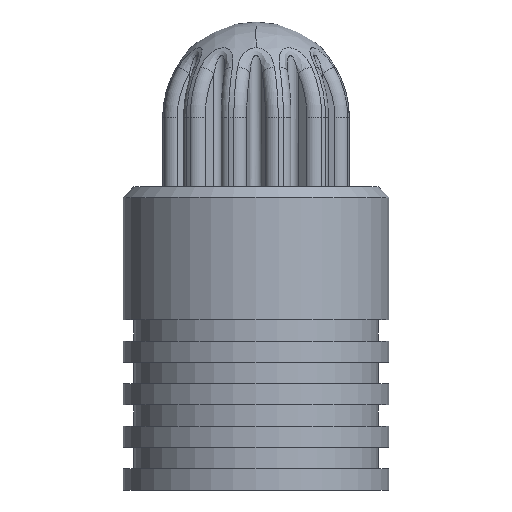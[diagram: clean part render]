
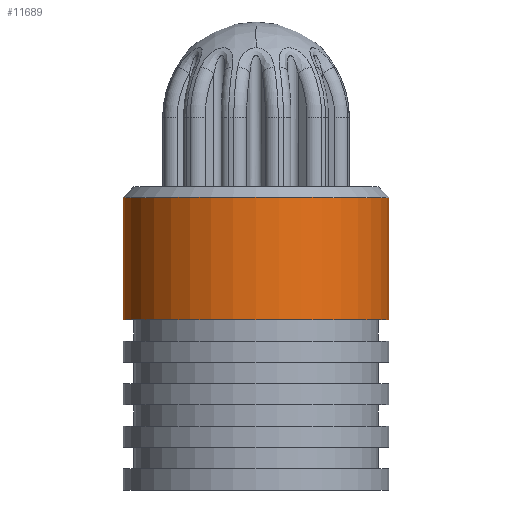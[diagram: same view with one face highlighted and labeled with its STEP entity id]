
A CAD part, front view. The second image highlights one B-rep face of the part: STEP entity #11689.
In plain terms, the highlighted cylindrical face has radius 3.174 mm (diameter 6.347 mm), a partial arc.
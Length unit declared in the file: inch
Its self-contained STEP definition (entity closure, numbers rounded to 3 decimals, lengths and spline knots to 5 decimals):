
#223 = ORIENTED_EDGE ( 'NONE', *, *, #13128, .T. ) ;
#858 = ORIENTED_EDGE ( 'NONE', *, *, #7886, .F. ) ;
#1384 = CARTESIAN_POINT ( 'NONE',  ( 0., 0., -0.125 ) ) ;
#1676 = CARTESIAN_POINT ( 'NONE',  ( 0.12495, 0., -0.125 ) ) ;
#6556 = CARTESIAN_POINT ( 'NONE',  ( -0.12495, 0., -0.01 ) ) ;
#6582 = ORIENTED_EDGE ( 'NONE', *, *, #9139, .F. ) ;
#6716 = FACE_OUTER_BOUND ( 'NONE', #10010, .T. ) ;
#6853 = LINE ( 'NONE', #13905, #17127 ) ;
#7840 = LINE ( 'NONE', #21650, #16772 ) ;
#7886 = EDGE_CURVE ( 'NONE', #21089, #22452, #6853, .T. ) ;
#8453 = DIRECTION ( 'NONE',  ( 0., 0., -1. ) ) ;
#8597 = DIRECTION ( 'NONE',  ( 0., 0., -1. ) ) ;
#9139 = EDGE_CURVE ( 'NONE', #22452, #12360, #11758, .T. ) ;
#9679 = AXIS2_PLACEMENT_3D ( 'NONE', #20667, #16864, #13439 ) ;
#10010 = EDGE_LOOP ( 'NONE', ( #858, #17193, #223, #6582 ) ) ;
#10542 = DIRECTION ( 'NONE',  ( 0., 0., -1. ) ) ;
#11407 = DIRECTION ( 'NONE',  ( 0., 0., -1. ) ) ;
#11544 = EDGE_CURVE ( 'NONE', #21089, #19057, #11893, .T. ) ;
#11689 = ADVANCED_FACE ( 'NONE', ( #6716 ), #12032, .T. ) ;
#11758 = CIRCLE ( 'NONE', #15804, 0.12495 ) ;
#11893 = CIRCLE ( 'NONE', #9679, 0.12495 ) ;
#12032 = CYLINDRICAL_SURFACE ( 'NONE', #15557, 0.12495 ) ;
#12360 = VERTEX_POINT ( 'NONE', #13693 ) ;
#13128 = EDGE_CURVE ( 'NONE', #19057, #12360, #7840, .T. ) ;
#13439 = DIRECTION ( 'NONE',  ( -1., 0., 0. ) ) ;
#13693 = CARTESIAN_POINT ( 'NONE',  ( -0.12495, 0., -0.125 ) ) ;
#13905 = CARTESIAN_POINT ( 'NONE',  ( 0.12495, 0., -0.35913 ) ) ;
#15557 = AXIS2_PLACEMENT_3D ( 'NONE', #19054, #8597, #17426 ) ;
#15804 = AXIS2_PLACEMENT_3D ( 'NONE', #1384, #8453, #22466 ) ;
#16772 = VECTOR ( 'NONE', #11407, 39.37008 ) ;
#16864 = DIRECTION ( 'NONE',  ( 0., 0., -1. ) ) ;
#17127 = VECTOR ( 'NONE', #10542, 39.37008 ) ;
#17193 = ORIENTED_EDGE ( 'NONE', *, *, #11544, .T. ) ;
#17426 = DIRECTION ( 'NONE',  ( -1., 0., 0. ) ) ;
#18302 = CARTESIAN_POINT ( 'NONE',  ( 0.12495, 0., -0.01 ) ) ;
#19054 = CARTESIAN_POINT ( 'NONE',  ( 0., 0., -0.35913 ) ) ;
#19057 = VERTEX_POINT ( 'NONE', #6556 ) ;
#20667 = CARTESIAN_POINT ( 'NONE',  ( 0., 0., -0.01 ) ) ;
#21089 = VERTEX_POINT ( 'NONE', #18302 ) ;
#21650 = CARTESIAN_POINT ( 'NONE',  ( -0.12495, 0., -0.35913 ) ) ;
#22452 = VERTEX_POINT ( 'NONE', #1676 ) ;
#22466 = DIRECTION ( 'NONE',  ( -1., 0., 0. ) ) ;
